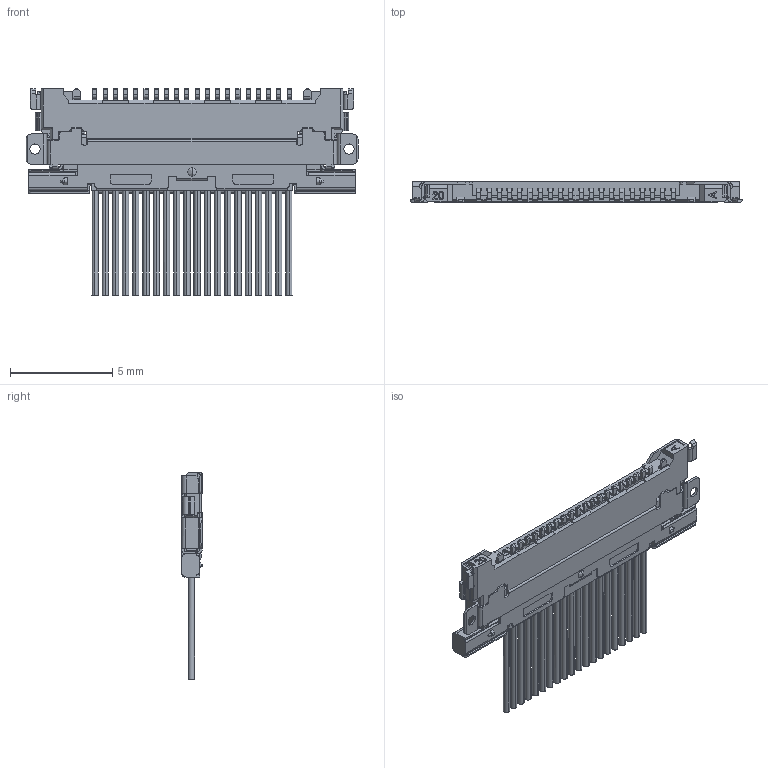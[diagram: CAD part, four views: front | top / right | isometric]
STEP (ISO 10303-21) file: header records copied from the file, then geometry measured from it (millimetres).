
FILE_DESCRIPTION (( 'STEP AP203' ), '1' );
FILE_NAME ('20455-A20E-xx+20453-x20T-x2.SLDPRT.STEP', '2020-12-16T04:06:45', ( '' ), ( '' ), 'SwSTEP 2.0', 'SolidWorks 2017', '' );
FILE_SCHEMA (( 'CONFIG_CONTROL_DESIGN' ));
Length unit declared in the file: millimetre
Products named in the file (1): 20455-A20E-xx+20453-x20T-x2.SLDPRT
Bounding box: 16.25 x 1.01 x 10.1 mm (x, y, z)
Volume: 69.1 mm3; surface area: 385.8 mm2
Topology: 1 solids, 10 shells, 2091 faces, 5921 edges, 3858 vertices
Faces by surface type: plane 1374, cylinder 599, bspline 70, cone 48
Entity records: 69639 total; most frequent: CARTESIAN_POINT 15731, ORIENTED_EDGE 11818, DIRECTION 10495, EDGE_CURVE 5909, LINE 4359, VECTOR 4359, VERTEX_POINT 3858, AXIS2_PLACEMENT_3D 3068
